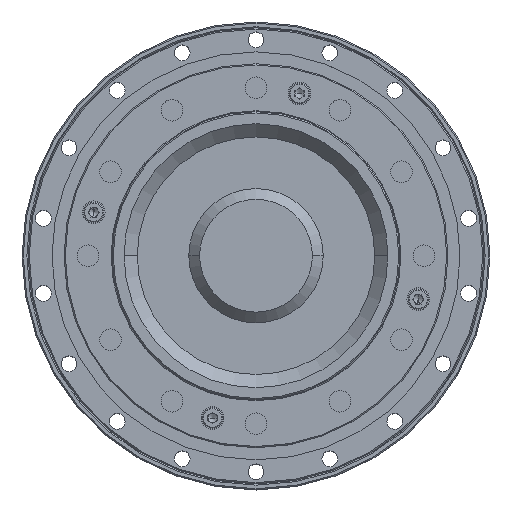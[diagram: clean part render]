
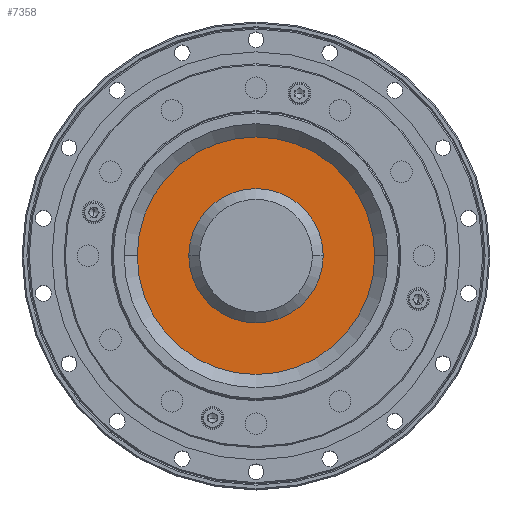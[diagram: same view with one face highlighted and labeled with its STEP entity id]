
A CAD part, top view. The second image highlights one B-rep face of the part: STEP entity #7358.
In plain terms, the highlighted planar face has unit normal (0, 0, 1).
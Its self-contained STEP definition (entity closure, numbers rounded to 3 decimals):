
#290 = AXIS2_PLACEMENT_3D ( 'NONE', #5105, #5067, #4793 ) ;
#304 = EDGE_CURVE ( 'NONE', #2986, #2485, #4844, .T. ) ;
#812 = ORIENTED_EDGE ( 'NONE', *, *, #3585, .T. ) ;
#843 = DIRECTION ( 'NONE',  ( -1., 0., 0. ) ) ;
#847 = ORIENTED_EDGE ( 'NONE', *, *, #6368, .F. ) ;
#852 = CARTESIAN_POINT ( 'NONE',  ( -17.372, -15.472, 235. ) ) ;
#897 = VERTEX_POINT ( 'NONE', #7781 ) ;
#930 = EDGE_CURVE ( 'NONE', #2611, #897, #9854, .T. ) ;
#1226 = AXIS2_PLACEMENT_3D ( 'NONE', #6994, #9478, #9507 ) ;
#1279 = DIRECTION ( 'NONE',  ( 0., 0., -1. ) ) ;
#2485 = VERTEX_POINT ( 'NONE', #5044 ) ;
#2611 = VERTEX_POINT ( 'NONE', #7306 ) ;
#2623 = CARTESIAN_POINT ( 'NONE',  ( 10.628, -15.472, 235. ) ) ;
#2986 = VERTEX_POINT ( 'NONE', #2623 ) ;
#3102 = ORIENTED_EDGE ( 'NONE', *, *, #930, .F. ) ;
#3585 = EDGE_CURVE ( 'NONE', #2485, #2986, #6742, .T. ) ;
#3917 = AXIS2_PLACEMENT_3D ( 'NONE', #7147, #7860, #7838 ) ;
#4077 = DIRECTION ( 'NONE',  ( 0., 0., -1. ) ) ;
#4443 = CIRCLE ( 'NONE', #6887, 49.5 ) ;
#4775 = PLANE ( 'NONE',  #7894 ) ;
#4793 = DIRECTION ( 'NONE',  ( -1., 0., 0. ) ) ;
#4844 = CIRCLE ( 'NONE', #1226, 28. ) ;
#4855 = CARTESIAN_POINT ( 'NONE',  ( -17.372, 34.028, 235. ) ) ;
#5044 = CARTESIAN_POINT ( 'NONE',  ( -45.372, -15.472, 235. ) ) ;
#5067 = DIRECTION ( 'NONE',  ( 0., 0., -1. ) ) ;
#5105 = CARTESIAN_POINT ( 'NONE',  ( -17.372, -15.472, 235. ) ) ;
#5874 = DIRECTION ( 'NONE',  ( -1., 0., 0. ) ) ;
#6368 = EDGE_CURVE ( 'NONE', #897, #2611, #4443, .T. ) ;
#6742 = CIRCLE ( 'NONE', #290, 28. ) ;
#6887 = AXIS2_PLACEMENT_3D ( 'NONE', #852, #1279, #843 ) ;
#6994 = CARTESIAN_POINT ( 'NONE',  ( -17.372, -15.472, 235. ) ) ;
#7147 = CARTESIAN_POINT ( 'NONE',  ( -17.372, -15.472, 235. ) ) ;
#7217 = FACE_OUTER_BOUND ( 'NONE', #7725, .T. ) ;
#7306 = CARTESIAN_POINT ( 'NONE',  ( -66.872, -15.472, 235. ) ) ;
#7358 = ADVANCED_FACE ( 'NONE', ( #7217, #7479 ), #4775, .F. ) ;
#7479 = FACE_BOUND ( 'NONE', #9377, .T. ) ;
#7725 = EDGE_LOOP ( 'NONE', ( #847, #3102 ) ) ;
#7781 = CARTESIAN_POINT ( 'NONE',  ( 32.128, -15.472, 235. ) ) ;
#7838 = DIRECTION ( 'NONE',  ( -1., 0., 0. ) ) ;
#7860 = DIRECTION ( 'NONE',  ( 0., 0., -1. ) ) ;
#7894 = AXIS2_PLACEMENT_3D ( 'NONE', #4855, #4077, #5874 ) ;
#9377 = EDGE_LOOP ( 'NONE', ( #812, #9571 ) ) ;
#9478 = DIRECTION ( 'NONE',  ( 0., 0., -1. ) ) ;
#9507 = DIRECTION ( 'NONE',  ( -1., 0., 0. ) ) ;
#9571 = ORIENTED_EDGE ( 'NONE', *, *, #304, .T. ) ;
#9854 = CIRCLE ( 'NONE', #3917, 49.5 ) ;
